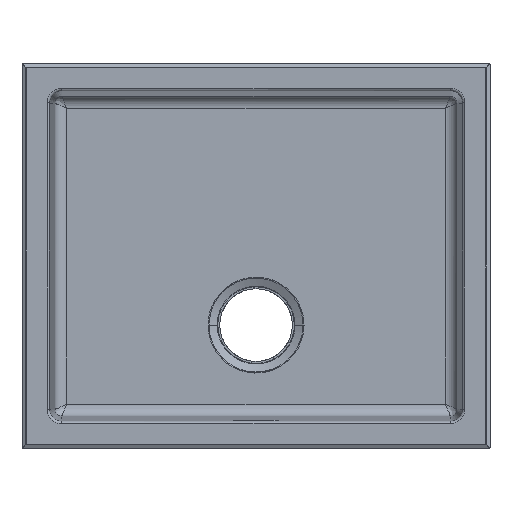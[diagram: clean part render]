
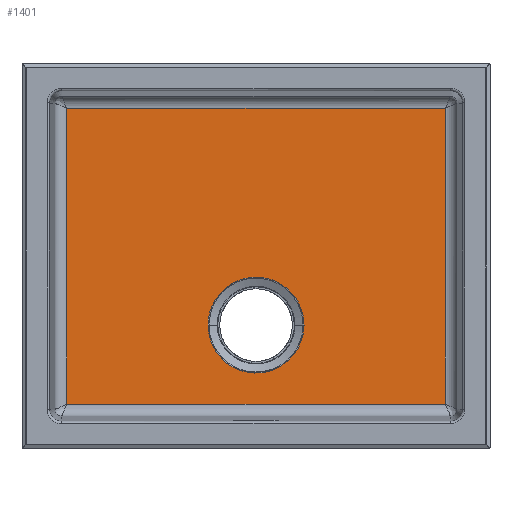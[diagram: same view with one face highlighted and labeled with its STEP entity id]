
A CAD part, top view. The second image highlights one B-rep face of the part: STEP entity #1401.
In plain terms, the highlighted planar face has unit normal (0, 0, 1).
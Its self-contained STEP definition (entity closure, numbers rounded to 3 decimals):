
#1160=CARTESIAN_POINT('Vertex',(58.143,150.022,-194.1)) ;
#1164=CARTESIAN_POINT('Control Point',(58.143,150.022,-194.1)) ;
#1165=CARTESIAN_POINT('Control Point',(58.143,150.208,-194.1)) ;
#1166=CARTESIAN_POINT('Control Point',(58.142,150.395,-194.1)) ;
#1167=CARTESIAN_POINT('Control Point',(58.141,150.582,-194.1)) ;
#1168=CARTESIAN_POINT('Control Point',(58.078,155.768,-194.1)) ;
#1169=CARTESIAN_POINT('Control Point',(57.437,160.946,-194.1)) ;
#1170=CARTESIAN_POINT('Control Point',(56.283,165.851,-194.1)) ;
#1171=CARTESIAN_POINT('Control Point',(52.725,175.944,-194.1)) ;
#1172=CARTESIAN_POINT('Control Point',(46.971,184.986,-194.1)) ;
#1173=CARTESIAN_POINT('Control Point',(43.351,189.385,-194.1)) ;
#1174=CARTESIAN_POINT('Control Point',(35.632,196.728,-194.1)) ;
#1175=CARTESIAN_POINT('Control Point',(26.475,202.142,-194.1)) ;
#1176=CARTESIAN_POINT('Control Point',(21.949,204.203,-194.1)) ;
#1177=CARTESIAN_POINT('Control Point',(11.857,207.559,-194.1)) ;
#1178=CARTESIAN_POINT('Control Point',(1.252,208.564,-194.1)) ;
#1179=CARTESIAN_POINT('Control Point',(-4.442,208.409,-194.1)) ;
#1180=CARTESIAN_POINT('Control Point',(-15.679,206.721,-194.1)) ;
#1181=CARTESIAN_POINT('Control Point',(-26.188,202.395,-194.1)) ;
#1182=CARTESIAN_POINT('Control Point',(-31.154,199.602,-194.1)) ;
#1183=CARTESIAN_POINT('Control Point',(-40.309,192.868,-194.1)) ;
#1184=CARTESIAN_POINT('Control Point',(-47.588,184.141,-194.1)) ;
#1185=CARTESIAN_POINT('Control Point',(-50.678,179.356,-194.1)) ;
#1186=CARTESIAN_POINT('Control Point',(-54.707,171.049,-194.1)) ;
#1187=CARTESIAN_POINT('Control Point',(-57.027,162.154,-194.1)) ;
#1188=CARTESIAN_POINT('Control Point',(-57.658,158.672,-194.1)) ;
#1189=CARTESIAN_POINT('Control Point',(-58.056,154.833,-194.1)) ;
#1190=CARTESIAN_POINT('Control Point',(-58.136,150.986,-194.1)) ;
#1191=CARTESIAN_POINT('Control Point',(-58.141,150.664,-194.1)) ;
#1192=CARTESIAN_POINT('Control Point',(-58.143,150.343,-194.1)) ;
#1193=CARTESIAN_POINT('Control Point',(-58.143,150.022,-194.1)) ;
#1194=CARTESIAN_POINT('Vertex',(-58.143,150.022,-194.1)) ;
#1320=CARTESIAN_POINT('Control Point',(58.143,150.022,-194.1)) ;
#1321=CARTESIAN_POINT('Control Point',(58.143,149.978,-194.1)) ;
#1322=CARTESIAN_POINT('Control Point',(58.143,149.934,-194.1)) ;
#1323=CARTESIAN_POINT('Control Point',(58.143,149.889,-194.1)) ;
#1324=CARTESIAN_POINT('Control Point',(58.141,149.316,-194.1)) ;
#1325=CARTESIAN_POINT('Control Point',(58.132,148.743,-194.1)) ;
#1326=CARTESIAN_POINT('Control Point',(58.118,148.214,-194.1)) ;
#1327=CARTESIAN_POINT('Control Point',(57.884,142.047,-194.1)) ;
#1328=CARTESIAN_POINT('Control Point',(56.833,135.921,-194.1)) ;
#1329=CARTESIAN_POINT('Control Point',(55.193,130.466,-194.1)) ;
#1330=CARTESIAN_POINT('Control Point',(50.625,120.061,-194.1)) ;
#1331=CARTESIAN_POINT('Control Point',(43.703,111.05,-194.1)) ;
#1332=CARTESIAN_POINT('Control Point',(39.71,106.988,-194.1)) ;
#1333=CARTESIAN_POINT('Control Point',(30.816,99.912,-194.1)) ;
#1334=CARTESIAN_POINT('Control Point',(20.488,95.168,-194.1)) ;
#1335=CARTESIAN_POINT('Control Point',(15.061,93.436,-194.1)) ;
#1336=CARTESIAN_POINT('Control Point',(3.895,91.324,-194.1)) ;
#1337=CARTESIAN_POINT('Control Point',(-7.45,91.942,-194.1)) ;
#1338=CARTESIAN_POINT('Control Point',(-13.058,92.941,-194.1)) ;
#1339=CARTESIAN_POINT('Control Point',(-23.921,96.279,-194.1)) ;
#1340=CARTESIAN_POINT('Control Point',(-33.673,102.117,-194.1)) ;
#1341=CARTESIAN_POINT('Control Point',(-38.168,105.615,-194.1)) ;
#1342=CARTESIAN_POINT('Control Point',(-47.605,115.011,-194.1)) ;
#1343=CARTESIAN_POINT('Control Point',(-54.09,126.73,-194.1)) ;
#1344=CARTESIAN_POINT('Control Point',(-56.671,134.001,-194.1)) ;
#1345=CARTESIAN_POINT('Control Point',(-58.053,141.737,-194.1)) ;
#1346=CARTESIAN_POINT('Control Point',(-58.141,149.493,-194.1)) ;
#1347=CARTESIAN_POINT('Control Point',(-58.142,149.67,-194.1)) ;
#1348=CARTESIAN_POINT('Control Point',(-58.143,149.846,-194.1)) ;
#1349=CARTESIAN_POINT('Control Point',(-58.143,150.022,-194.1)) ;
#1358=CARTESIAN_POINT('Axis2P3D Location',(-235.554,32.924,-194.1)) ;
#1363=CARTESIAN_POINT('Line Origine',(-235.554,54.219,-194.1)) ;
#1367=CARTESIAN_POINT('Vertex',(229.151,54.219,-194.1)) ;
#1369=CARTESIAN_POINT('Vertex',(-229.259,54.219,-194.1)) ;
#1372=CARTESIAN_POINT('Line Origine',(229.151,32.924,-194.1)) ;
#1376=CARTESIAN_POINT('Vertex',(229.151,412.629,-194.1)) ;
#1379=CARTESIAN_POINT('Line Origine',(-235.554,412.629,-194.1)) ;
#1383=CARTESIAN_POINT('Vertex',(-229.259,412.629,-194.1)) ;
#1386=CARTESIAN_POINT('Line Origine',(-229.259,32.924,-194.1)) ;
#1359=DIRECTION('Axis2P3D Direction',(0.,0.,-1.)) ;
#1360=DIRECTION('Axis2P3D XDirection',(1.,0.,0.)) ;
#1364=DIRECTION('Vector Direction',(1.,0.,0.)) ;
#1373=DIRECTION('Vector Direction',(0.,-1.,0.)) ;
#1380=DIRECTION('Vector Direction',(1.,0.,0.)) ;
#1387=DIRECTION('Vector Direction',(0.,-1.,0.)) ;
#1361=AXIS2_PLACEMENT_3D('Plane Axis2P3D',#1358,#1359,#1360) ;
#1392=ORIENTED_EDGE('',*,*,#1371,.F.) ;
#1393=ORIENTED_EDGE('',*,*,#1378,.F.) ;
#1394=ORIENTED_EDGE('',*,*,#1385,.F.) ;
#1395=ORIENTED_EDGE('',*,*,#1390,.F.) ;
#1398=ORIENTED_EDGE('',*,*,#1350,.F.) ;
#1399=ORIENTED_EDGE('',*,*,#1196,.F.) ;
#1400=FACE_BOUND('',#1397,.T.) ;
#1365=VECTOR('Line Direction',#1364,1.) ;
#1374=VECTOR('Line Direction',#1373,1.) ;
#1381=VECTOR('Line Direction',#1380,1.) ;
#1388=VECTOR('Line Direction',#1387,1.) ;
#1401=ADVANCED_FACE('PartBody',(#1396,#1400),#1362,.F.) ;
#1163=B_SPLINE_CURVE_WITH_KNOTS('',5,(#1164,#1165,#1166,#1167,#1168,#1169,#1170,#1171,#1172,#1173,#1174,#1175,#1176,#1177,#1178,#1179,#1180,#1181,#1182,#1183,#1184,#1185,#1186,#1187,#1188,#1189,#1190,#1191,#1192,#1193),.UNSPECIFIED.,.F.,.U.,(6,3,3,3,3,3,3,3,3,6),(89.287,90.542,124.205,162.182,195.409,233.389,271.364,309.341,333.075,335.246),.UNSPECIFIED.) ;
#1319=B_SPLINE_CURVE_WITH_KNOTS('',5,(#1320,#1321,#1322,#1323,#1324,#1325,#1326,#1327,#1328,#1329,#1330,#1331,#1332,#1333,#1334,#1335,#1336,#1337,#1338,#1339,#1340,#1341,#1342,#1343,#1344,#1345,#1346,#1347,#1348,#1349),.UNSPECIFIED.,.F.,.U.,(6,3,3,3,3,3,3,3,3,6),(89.61,89.907,93.469,131.446,169.419,207.398,245.377,283.351,334.38,335.566),.UNSPECIFIED.) ;
#1196=EDGE_CURVE('',#1161,#1195,#1163,.T.) ;
#1350=EDGE_CURVE('',#1195,#1161,#1319,.F.) ;
#1371=EDGE_CURVE('',#1368,#1370,#1366,.F.) ;
#1378=EDGE_CURVE('',#1377,#1368,#1375,.T.) ;
#1385=EDGE_CURVE('',#1384,#1377,#1382,.T.) ;
#1390=EDGE_CURVE('',#1370,#1384,#1389,.F.) ;
#1391=EDGE_LOOP('',(#1392,#1393,#1394,#1395)) ;
#1397=EDGE_LOOP('',(#1398,#1399)) ;
#1396=FACE_OUTER_BOUND('',#1391,.T.) ;
#1366=LINE('Line',#1363,#1365) ;
#1375=LINE('Line',#1372,#1374) ;
#1382=LINE('Line',#1379,#1381) ;
#1389=LINE('Line',#1386,#1388) ;
#1362=PLANE('',#1361) ;
#1161=VERTEX_POINT('',#1160) ;
#1195=VERTEX_POINT('',#1194) ;
#1368=VERTEX_POINT('',#1367) ;
#1370=VERTEX_POINT('',#1369) ;
#1377=VERTEX_POINT('',#1376) ;
#1384=VERTEX_POINT('',#1383) ;
